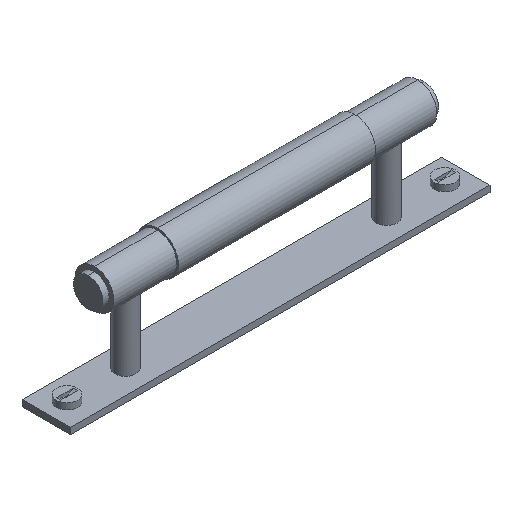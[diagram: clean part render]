
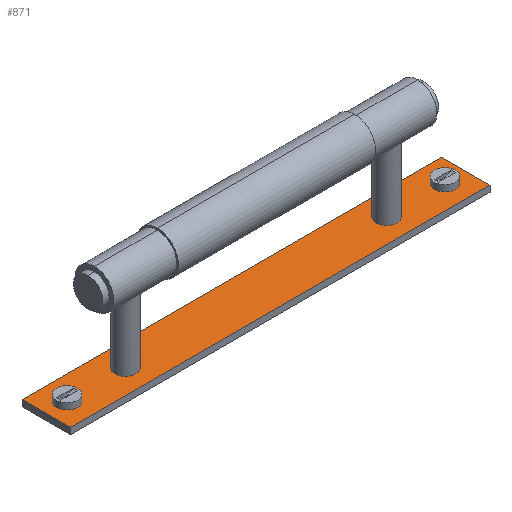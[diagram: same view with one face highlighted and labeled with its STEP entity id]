
A CAD part, isometric view. The second image highlights one B-rep face of the part: STEP entity #871.
In plain terms, the highlighted planar face has unit normal (0, 0, 1).
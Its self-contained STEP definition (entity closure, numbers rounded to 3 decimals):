
#1 = FACE_BOUND ( 'NONE', #736, .T. ) ;
#4 = DIRECTION ( 'NONE',  ( -1., 0., 0. ) ) ;
#55 = ORIENTED_EDGE ( 'NONE', *, *, #1199, .T. ) ;
#58 = DIRECTION ( 'NONE',  ( -1., 0., 0. ) ) ;
#80 = VERTEX_POINT ( 'NONE', #566 ) ;
#85 = CARTESIAN_POINT ( 'NONE',  ( -95., 0., -40. ) ) ;
#105 = DIRECTION ( 'NONE',  ( 0., 0., 1. ) ) ;
#111 = VERTEX_POINT ( 'NONE', #85 ) ;
#121 = CARTESIAN_POINT ( 'NONE',  ( -100., -11.5, -40. ) ) ;
#134 = CARTESIAN_POINT ( 'NONE',  ( 90., 0., -40. ) ) ;
#137 = CARTESIAN_POINT ( 'NONE',  ( 62.25, 0., -40. ) ) ;
#152 = CARTESIAN_POINT ( 'NONE',  ( -62.25, 0., -40. ) ) ;
#153 = FACE_OUTER_BOUND ( 'NONE', #402, .T. ) ;
#156 = DIRECTION ( 'NONE',  ( -1., 0., 0. ) ) ;
#169 = LINE ( 'NONE', #121, #691 ) ;
#179 = EDGE_LOOP ( 'NONE', ( #668, #831 ) ) ;
#190 = VERTEX_POINT ( 'NONE', #972 ) ;
#206 = EDGE_LOOP ( 'NONE', ( #1032, #453 ) ) ;
#216 = VECTOR ( 'NONE', #58, 1000. ) ;
#217 = CIRCLE ( 'NONE', #950, 5. ) ;
#225 = EDGE_CURVE ( 'NONE', #943, #706, #217, .T. ) ;
#235 = DIRECTION ( 'NONE',  ( -1., 0., 0. ) ) ;
#239 = DIRECTION ( 'NONE',  ( -1., 0., 0. ) ) ;
#246 = ORIENTED_EDGE ( 'NONE', *, *, #774, .F. ) ;
#247 = CARTESIAN_POINT ( 'NONE',  ( 100., -11.5, -40. ) ) ;
#254 = DIRECTION ( 'NONE',  ( -1., 0., 0. ) ) ;
#284 = CARTESIAN_POINT ( 'NONE',  ( -100., -11.5, -40. ) ) ;
#329 = CIRCLE ( 'NONE', #769, 5. ) ;
#332 = ORIENTED_EDGE ( 'NONE', *, *, #400, .F. ) ;
#333 = CARTESIAN_POINT ( 'NONE',  ( 95., 0., -40. ) ) ;
#343 = CARTESIAN_POINT ( 'NONE',  ( -90., 0., -40. ) ) ;
#361 = AXIS2_PLACEMENT_3D ( 'NONE', #152, #837, #254 ) ;
#400 = EDGE_CURVE ( 'NONE', #836, #80, #614, .T. ) ;
#402 = EDGE_LOOP ( 'NONE', ( #792, #246, #971, #685 ) ) ;
#407 = AXIS2_PLACEMENT_3D ( 'NONE', #1159, #577, #4 ) ;
#409 = FACE_BOUND ( 'NONE', #179, .T. ) ;
#439 = DIRECTION ( 'NONE',  ( 0., -1., 0. ) ) ;
#441 = LINE ( 'NONE', #247, #710 ) ;
#449 = DIRECTION ( 'NONE',  ( -1., 0., 0. ) ) ;
#451 = DIRECTION ( 'NONE',  ( 0., 0., 1. ) ) ;
#453 = ORIENTED_EDGE ( 'NONE', *, *, #610, .T. ) ;
#454 = CARTESIAN_POINT ( 'NONE',  ( 62.25, 0., -40. ) ) ;
#459 = CIRCLE ( 'NONE', #407, 5. ) ;
#492 = ORIENTED_EDGE ( 'NONE', *, *, #648, .T. ) ;
#496 = DIRECTION ( 'NONE',  ( -1., 0., 0. ) ) ;
#497 = AXIS2_PLACEMENT_3D ( 'NONE', #343, #1041, #449 ) ;
#498 = CARTESIAN_POINT ( 'NONE',  ( -100., 11.5, -40. ) ) ;
#517 = EDGE_LOOP ( 'NONE', ( #55, #492 ) ) ;
#523 = EDGE_CURVE ( 'NONE', #615, #540, #981, .T. ) ;
#525 = AXIS2_PLACEMENT_3D ( 'NONE', #1043, #451, #1135 ) ;
#531 = CARTESIAN_POINT ( 'NONE',  ( -67.25, 0., -40. ) ) ;
#540 = VERTEX_POINT ( 'NONE', #498 ) ;
#542 = AXIS2_PLACEMENT_3D ( 'NONE', #137, #825, #239 ) ;
#561 = DIRECTION ( 'NONE',  ( -1., 0., 0. ) ) ;
#566 = CARTESIAN_POINT ( 'NONE',  ( 85., 0., -40. ) ) ;
#577 = DIRECTION ( 'NONE',  ( 0., 0., -1. ) ) ;
#588 = CARTESIAN_POINT ( 'NONE',  ( 100., -11.5, -40. ) ) ;
#590 = EDGE_CURVE ( 'NONE', #706, #943, #661, .T. ) ;
#610 = EDGE_CURVE ( 'NONE', #786, #111, #859, .T. ) ;
#614 = CIRCLE ( 'NONE', #525, 5. ) ;
#615 = VERTEX_POINT ( 'NONE', #642 ) ;
#623 = CIRCLE ( 'NONE', #542, 5. ) ;
#640 = PLANE ( 'NONE',  #893 ) ;
#642 = CARTESIAN_POINT ( 'NONE',  ( 100., 11.5, -40. ) ) ;
#648 = EDGE_CURVE ( 'NONE', #190, #1230, #329, .T. ) ;
#661 = CIRCLE ( 'NONE', #361, 5. ) ;
#668 = ORIENTED_EDGE ( 'NONE', *, *, #590, .F. ) ;
#674 = AXIS2_PLACEMENT_3D ( 'NONE', #134, #821, #235 ) ;
#676 = FACE_BOUND ( 'NONE', #517, .T. ) ;
#684 = CARTESIAN_POINT ( 'NONE',  ( -62.25, 0., -40. ) ) ;
#685 = ORIENTED_EDGE ( 'NONE', *, *, #523, .T. ) ;
#691 = VECTOR ( 'NONE', #807, 1000. ) ;
#695 = VECTOR ( 'NONE', #496, 1000. ) ;
#696 = CARTESIAN_POINT ( 'NONE',  ( 100., 11.5, -40. ) ) ;
#703 = VERTEX_POINT ( 'NONE', #284 ) ;
#706 = VERTEX_POINT ( 'NONE', #876 ) ;
#710 = VECTOR ( 'NONE', #439, 1000. ) ;
#736 = EDGE_LOOP ( 'NONE', ( #891, #332 ) ) ;
#750 = DIRECTION ( 'NONE',  ( 0., 0., -1. ) ) ;
#769 = AXIS2_PLACEMENT_3D ( 'NONE', #454, #1137, #561 ) ;
#774 = EDGE_CURVE ( 'NONE', #1142, #703, #777, .T. ) ;
#777 = LINE ( 'NONE', #588, #216 ) ;
#786 = VERTEX_POINT ( 'NONE', #833 ) ;
#787 = DIRECTION ( 'NONE',  ( -1., 0., 0. ) ) ;
#792 = ORIENTED_EDGE ( 'NONE', *, *, #1167, .T. ) ;
#795 = EDGE_CURVE ( 'NONE', #615, #1142, #441, .T. ) ;
#807 = DIRECTION ( 'NONE',  ( 0., -1., 0. ) ) ;
#821 = DIRECTION ( 'NONE',  ( 0., 0., 1. ) ) ;
#825 = DIRECTION ( 'NONE',  ( 0., 0., -1. ) ) ;
#831 = ORIENTED_EDGE ( 'NONE', *, *, #225, .F. ) ;
#833 = CARTESIAN_POINT ( 'NONE',  ( -85., 0., -40. ) ) ;
#836 = VERTEX_POINT ( 'NONE', #333 ) ;
#837 = DIRECTION ( 'NONE',  ( 0., 0., 1. ) ) ;
#859 = CIRCLE ( 'NONE', #497, 5. ) ;
#871 = ADVANCED_FACE ( 'NONE', ( #1164, #676, #153, #409, #1 ), #640, .F. ) ;
#876 = CARTESIAN_POINT ( 'NONE',  ( -57.25, 0., -40. ) ) ;
#891 = ORIENTED_EDGE ( 'NONE', *, *, #1182, .F. ) ;
#893 = AXIS2_PLACEMENT_3D ( 'NONE', #1035, #750, #156 ) ;
#943 = VERTEX_POINT ( 'NONE', #531 ) ;
#950 = AXIS2_PLACEMENT_3D ( 'NONE', #684, #105, #787 ) ;
#960 = CARTESIAN_POINT ( 'NONE',  ( 100., -11.5, -40. ) ) ;
#971 = ORIENTED_EDGE ( 'NONE', *, *, #795, .F. ) ;
#972 = CARTESIAN_POINT ( 'NONE',  ( 57.25, 0., -40. ) ) ;
#981 = LINE ( 'NONE', #696, #695 ) ;
#1032 = ORIENTED_EDGE ( 'NONE', *, *, #1157, .T. ) ;
#1035 = CARTESIAN_POINT ( 'NONE',  ( 100., -11.5, -40. ) ) ;
#1041 = DIRECTION ( 'NONE',  ( 0., 0., -1. ) ) ;
#1043 = CARTESIAN_POINT ( 'NONE',  ( 90., 0., -40. ) ) ;
#1135 = DIRECTION ( 'NONE',  ( -1., 0., 0. ) ) ;
#1137 = DIRECTION ( 'NONE',  ( 0., 0., -1. ) ) ;
#1142 = VERTEX_POINT ( 'NONE', #960 ) ;
#1157 = EDGE_CURVE ( 'NONE', #111, #786, #459, .T. ) ;
#1159 = CARTESIAN_POINT ( 'NONE',  ( -90., 0., -40. ) ) ;
#1164 = FACE_BOUND ( 'NONE', #206, .T. ) ;
#1167 = EDGE_CURVE ( 'NONE', #540, #703, #169, .T. ) ;
#1176 = CIRCLE ( 'NONE', #674, 5. ) ;
#1182 = EDGE_CURVE ( 'NONE', #80, #836, #1176, .T. ) ;
#1199 = EDGE_CURVE ( 'NONE', #1230, #190, #623, .T. ) ;
#1211 = CARTESIAN_POINT ( 'NONE',  ( 67.25, 0., -40. ) ) ;
#1230 = VERTEX_POINT ( 'NONE', #1211 ) ;
